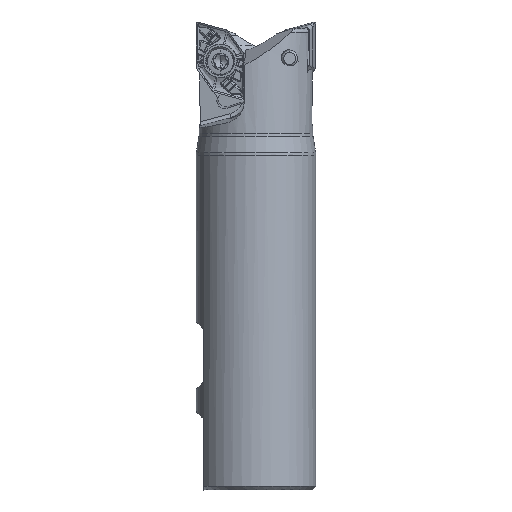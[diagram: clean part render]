
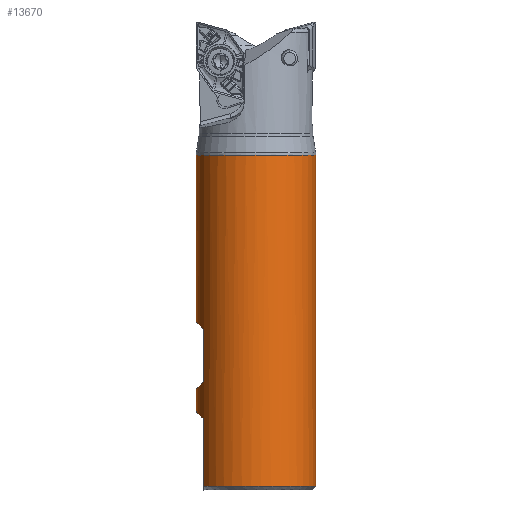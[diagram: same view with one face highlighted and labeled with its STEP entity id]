
A CAD part, front view. The second image highlights one B-rep face of the part: STEP entity #13670.
In plain terms, the highlighted cylindrical face has radius 16 mm (diameter 32 mm), a partial arc.
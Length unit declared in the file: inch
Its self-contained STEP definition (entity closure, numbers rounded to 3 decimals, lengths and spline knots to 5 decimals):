
#521 = ORIENTED_EDGE ( 'NONE', *, *, #17380, .T. ) ;
#547 =( BOUNDED_CURVE ( )  B_SPLINE_CURVE ( 3, ( #22775, #30372, #44024, #19643 ),
 .UNSPECIFIED., .F., .T. ) 
 B_SPLINE_CURVE_WITH_KNOTS ( ( 4, 4 ),
 ( 0., 0.50536 ),
 .UNSPECIFIED. ) 
 CURVE ( )  GEOMETRIC_REPRESENTATION_ITEM ( )  RATIONAL_B_SPLINE_CURVE ( ( 1., 0.979, 0.979, 1. ) ) 
 REPRESENTATION_ITEM ( '' )  );
#1365 = DIRECTION ( 'NONE',  ( 1., 0., 0. ) ) ;
#1475 = DIRECTION ( 'NONE',  ( 0., 0., -1. ) ) ;
#1832 = EDGE_LOOP ( 'NONE', ( #9896, #2151, #36629, #20406, #521, #24878, #7692, #18396, #3294, #30336 ) ) ;
#1866 = VECTOR ( 'NONE', #1475, 39.37008 ) ;
#2151 = ORIENTED_EDGE ( 'NONE', *, *, #32315, .T. ) ;
#2306 = CARTESIAN_POINT ( 'NONE',  ( -0.55118, -0.30496, 0. ) ) ;
#3294 = ORIENTED_EDGE ( 'NONE', *, *, #30001, .T. ) ;
#4222 = VERTEX_POINT ( 'NONE', #12623 ) ;
#5289 = CARTESIAN_POINT ( 'NONE',  ( -0.55118, -0.30496, -3.77953 ) ) ;
#5303 = AXIS2_PLACEMENT_3D ( 'NONE', #6899, #33979, #41113 ) ;
#5512 = CARTESIAN_POINT ( 'NONE',  ( -0.55118, -0.30496, 0. ) ) ;
#5735 = CARTESIAN_POINT ( 'NONE',  ( -0.55118, -0.30496, -3.22835 ) ) ;
#5940 = VERTEX_POINT ( 'NONE', #14613 ) ;
#6899 = CARTESIAN_POINT ( 'NONE',  ( 0., 0., -1.39344 ) ) ;
#7069 = CARTESIAN_POINT ( 'NONE',  ( -0.62992, 0., -3.14961 ) ) ;
#7692 = ORIENTED_EDGE ( 'NONE', *, *, #43615, .F. ) ;
#7753 =( BOUNDED_CURVE ( )  B_SPLINE_CURVE ( 3, ( #7069, #34377, #44202, #34599 ),
 .UNSPECIFIED., .F., .F. ) 
 B_SPLINE_CURVE_WITH_KNOTS ( ( 4, 4 ),
 ( 0., 0.50536 ),
 .UNSPECIFIED. ) 
 CURVE ( )  GEOMETRIC_REPRESENTATION_ITEM ( )  RATIONAL_B_SPLINE_CURVE ( ( 1., 0.979, 0.979, 1. ) ) 
 REPRESENTATION_ITEM ( '' )  );
#8389 = VERTEX_POINT ( 'NONE', #5289 ) ;
#8538 = FACE_OUTER_BOUND ( 'NONE', #1832, .T. ) ;
#8782 = DIRECTION ( 'NONE',  ( 0., 0., 1. ) ) ;
#9465 = LINE ( 'NONE', #2306, #32664 ) ;
#9896 = ORIENTED_EDGE ( 'NONE', *, *, #16754, .F. ) ;
#11009 = AXIS2_PLACEMENT_3D ( 'NONE', #18075, #15612, #43332 ) ;
#12261 = LINE ( 'NONE', #40202, #28016 ) ;
#12623 = CARTESIAN_POINT ( 'NONE',  ( -0.62992, 0., -3.14961 ) ) ;
#12633 = DIRECTION ( 'NONE',  ( 0., 0., -1. ) ) ;
#13670 = ADVANCED_FACE ( 'NONE', ( #8538 ), #28910, .T. ) ;
#14613 = CARTESIAN_POINT ( 'NONE',  ( -0.62992, 0., -4.09449 ) ) ;
#14808 = EDGE_CURVE ( 'NONE', #8389, #22504, #43230, .T. ) ;
#15243 = VERTEX_POINT ( 'NONE', #42740 ) ;
#15612 = DIRECTION ( 'NONE',  ( 0., 0., 1. ) ) ;
#16176 = CARTESIAN_POINT ( 'NONE',  ( -0.62992, 0., 0. ) ) ;
#16754 = EDGE_CURVE ( 'NONE', #5940, #22504, #12261, .T. ) ;
#17380 = EDGE_CURVE ( 'NONE', #15243, #40540, #36163, .T. ) ;
#18075 = CARTESIAN_POINT ( 'NONE',  ( 0., 0., -4.88189 ) ) ;
#18163 = CARTESIAN_POINT ( 'NONE',  ( 0., 0., 0. ) ) ;
#18349 = CARTESIAN_POINT ( 'NONE',  ( -0.62992, 0., -3.85827 ) ) ;
#18396 = ORIENTED_EDGE ( 'NONE', *, *, #43117, .T. ) ;
#19326 = CARTESIAN_POINT ( 'NONE',  ( 0.62992, 0., 0. ) ) ;
#19643 = CARTESIAN_POINT ( 'NONE',  ( -0.55118, -0.30496, -4.17323 ) ) ;
#20319 = CARTESIAN_POINT ( 'NONE',  ( -0.55118, -0.30496, -3.77953 ) ) ;
#20406 = ORIENTED_EDGE ( 'NONE', *, *, #41897, .T. ) ;
#21370 = CARTESIAN_POINT ( 'NONE',  ( -0.62992, 0., -1.39344 ) ) ;
#22504 = VERTEX_POINT ( 'NONE', #18349 ) ;
#22775 = CARTESIAN_POINT ( 'NONE',  ( -0.62992, 0., -4.09449 ) ) ;
#24582 = CIRCLE ( 'NONE', #5303, 0.62992 ) ;
#24878 = ORIENTED_EDGE ( 'NONE', *, *, #41714, .T. ) ;
#25659 = LINE ( 'NONE', #5512, #1866 ) ;
#25796 = LINE ( 'NONE', #16176, #31066 ) ;
#26056 = VERTEX_POINT ( 'NONE', #38447 ) ;
#26675 = CARTESIAN_POINT ( 'NONE',  ( 0.62992, 0., -1.39344 ) ) ;
#26682 = AXIS2_PLACEMENT_3D ( 'NONE', #18163, #32028, #1365 ) ;
#27236 = CARTESIAN_POINT ( 'NONE',  ( -0.60311, -0.21111, -3.83145 ) ) ;
#27466 = CARTESIAN_POINT ( 'NONE',  ( -0.62992, -0.10726, -3.85827 ) ) ;
#28016 = VECTOR ( 'NONE', #36233, 39.37008 ) ;
#28847 = EDGE_CURVE ( 'NONE', #39362, #26056, #25659, .T. ) ;
#28910 = CYLINDRICAL_SURFACE ( 'NONE', #26682, 0.62992 ) ;
#30001 = EDGE_CURVE ( 'NONE', #41958, #8389, #9465, .T. ) ;
#30336 = ORIENTED_EDGE ( 'NONE', *, *, #14808, .T. ) ;
#30372 = CARTESIAN_POINT ( 'NONE',  ( -0.62992, -0.10726, -4.09449 ) ) ;
#31066 = VECTOR ( 'NONE', #8782, 39.37008 ) ;
#32028 = DIRECTION ( 'NONE',  ( 0., 0., 1. ) ) ;
#32315 = EDGE_CURVE ( 'NONE', #5940, #39362, #547, .T. ) ;
#32664 = VECTOR ( 'NONE', #12633, 39.37008 ) ;
#33972 = CARTESIAN_POINT ( 'NONE',  ( -0.62992, 0., -3.85827 ) ) ;
#33979 = DIRECTION ( 'NONE',  ( 0., 0., -1. ) ) ;
#34377 = CARTESIAN_POINT ( 'NONE',  ( -0.62992, -0.10726, -3.14961 ) ) ;
#34599 = CARTESIAN_POINT ( 'NONE',  ( -0.55118, -0.30496, -3.22835 ) ) ;
#35326 = CIRCLE ( 'NONE', #11009, 0.62992 ) ;
#36163 = LINE ( 'NONE', #19326, #37363 ) ;
#36233 = DIRECTION ( 'NONE',  ( 0., 0., 1. ) ) ;
#36629 = ORIENTED_EDGE ( 'NONE', *, *, #28847, .T. ) ;
#36993 = VERTEX_POINT ( 'NONE', #21370 ) ;
#37312 = CARTESIAN_POINT ( 'NONE',  ( -0.55118, -0.30496, -4.17323 ) ) ;
#37363 = VECTOR ( 'NONE', #40356, 39.37008 ) ;
#38447 = CARTESIAN_POINT ( 'NONE',  ( -0.55118, -0.30496, -4.88189 ) ) ;
#39362 = VERTEX_POINT ( 'NONE', #37312 ) ;
#40202 = CARTESIAN_POINT ( 'NONE',  ( -0.62992, 0., 0. ) ) ;
#40356 = DIRECTION ( 'NONE',  ( 0., 0., 1. ) ) ;
#40540 = VERTEX_POINT ( 'NONE', #26675 ) ;
#41113 = DIRECTION ( 'NONE',  ( 1., 0., 0. ) ) ;
#41714 = EDGE_CURVE ( 'NONE', #40540, #36993, #24582, .T. ) ;
#41897 = EDGE_CURVE ( 'NONE', #26056, #15243, #35326, .T. ) ;
#41958 = VERTEX_POINT ( 'NONE', #5735 ) ;
#42740 = CARTESIAN_POINT ( 'NONE',  ( 0.62992, 0., -4.88189 ) ) ;
#43117 = EDGE_CURVE ( 'NONE', #4222, #41958, #7753, .T. ) ;
#43230 =( BOUNDED_CURVE ( )  B_SPLINE_CURVE ( 3, ( #20319, #27236, #27466, #33972 ),
 .UNSPECIFIED., .F., .F. ) 
 B_SPLINE_CURVE_WITH_KNOTS ( ( 4, 4 ),
 ( 2.63623, 3.14159 ),
 .UNSPECIFIED. ) 
 CURVE ( )  GEOMETRIC_REPRESENTATION_ITEM ( )  RATIONAL_B_SPLINE_CURVE ( ( 1., 0.979, 0.979, 1. ) ) 
 REPRESENTATION_ITEM ( '' )  );
#43332 = DIRECTION ( 'NONE',  ( 1., 0., 0. ) ) ;
#43615 = EDGE_CURVE ( 'NONE', #4222, #36993, #25796, .T. ) ;
#44024 = CARTESIAN_POINT ( 'NONE',  ( -0.60311, -0.21111, -4.1213 ) ) ;
#44202 = CARTESIAN_POINT ( 'NONE',  ( -0.60311, -0.21111, -3.17642 ) ) ;
